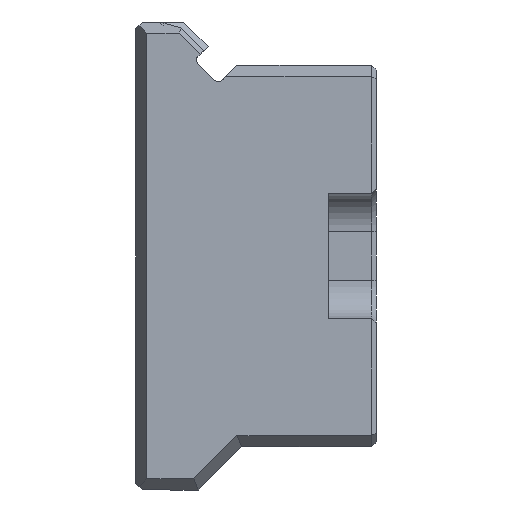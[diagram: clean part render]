
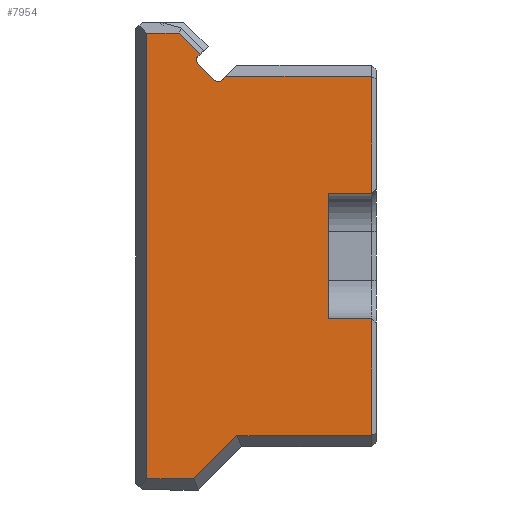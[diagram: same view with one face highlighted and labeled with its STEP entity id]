
A CAD part, left-side view. The second image highlights one B-rep face of the part: STEP entity #7954.
In plain terms, the highlighted planar face has unit normal (-1, 0, 0).
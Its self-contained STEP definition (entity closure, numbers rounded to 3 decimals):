
#35 = PLANE ( 'NONE',  #5017 ) ;
#42 = EDGE_CURVE ( 'NONE', #11324, #8153, #10533, .T. ) ;
#75 = CIRCLE ( 'NONE', #3357, 0.5 ) ;
#76 = ORIENTED_EDGE ( 'NONE', *, *, #3324, .T. ) ;
#85 = CARTESIAN_POINT ( 'NONE',  ( -96., 18.531, 20.719 ) ) ;
#228 = ORIENTED_EDGE ( 'NONE', *, *, #2652, .T. ) ;
#233 = DIRECTION ( 'NONE',  ( 0., 0., 1. ) ) ;
#245 = EDGE_CURVE ( 'NONE', #9662, #11324, #13432, .T. ) ;
#333 = LINE ( 'NONE', #4507, #3190 ) ;
#341 = VECTOR ( 'NONE', #7131, 1000. ) ;
#384 = CARTESIAN_POINT ( 'NONE',  ( -96., 18.177, 20.366 ) ) ;
#444 = CARTESIAN_POINT ( 'NONE',  ( -96., 5., 6.5 ) ) ;
#492 = AXIS2_PLACEMENT_3D ( 'NONE', #384, #1259, #3394 ) ;
#562 = LINE ( 'NONE', #4802, #11671 ) ;
#866 = CARTESIAN_POINT ( 'NONE',  ( -96., 15.5, 18.645 ) ) ;
#913 = LINE ( 'NONE', #7177, #6960 ) ;
#936 = DIRECTION ( 'NONE',  ( 0., 0., 1. ) ) ;
#953 = CARTESIAN_POINT ( 'NONE',  ( -96., 20.478, 23.145 ) ) ;
#1013 = VERTEX_POINT ( 'NONE', #953 ) ;
#1137 = DIRECTION ( 'NONE',  ( 1., 0., 0. ) ) ;
#1149 = CARTESIAN_POINT ( 'NONE',  ( -96., 23.845, -24.3 ) ) ;
#1223 = ORIENTED_EDGE ( 'NONE', *, *, #8523, .T. ) ;
#1259 = DIRECTION ( 'NONE',  ( 1., 0., 0. ) ) ;
#1343 = VECTOR ( 'NONE', #7256, 1000. ) ;
#1457 = ORIENTED_EDGE ( 'NONE', *, *, #10253, .F. ) ;
#1555 = LINE ( 'NONE', #11840, #1683 ) ;
#1573 = CARTESIAN_POINT ( 'NONE',  ( -96., 18.531, 20.012 ) ) ;
#1595 = VECTOR ( 'NONE', #10162, 1000. ) ;
#1656 = DIRECTION ( 'NONE',  ( 0., 0., -1. ) ) ;
#1671 = EDGE_CURVE ( 'NONE', #8153, #2325, #7316, .T. ) ;
#1683 = VECTOR ( 'NONE', #11912, 1000. ) ;
#1730 = EDGE_CURVE ( 'NONE', #7205, #12745, #10467, .T. ) ;
#2009 = ORIENTED_EDGE ( 'NONE', *, *, #5384, .T. ) ;
#2065 = EDGE_CURVE ( 'NONE', #2797, #6049, #1555, .T. ) ;
#2080 = ORIENTED_EDGE ( 'NONE', *, *, #42, .T. ) ;
#2325 = VERTEX_POINT ( 'NONE', #8311 ) ;
#2341 = VERTEX_POINT ( 'NONE', #11650 ) ;
#2409 = VERTEX_POINT ( 'NONE', #5792 ) ;
#2621 = CARTESIAN_POINT ( 'NONE',  ( -96., 0.5, 18.645 ) ) ;
#2652 = EDGE_CURVE ( 'NONE', #2325, #1013, #562, .T. ) ;
#2686 = ORIENTED_EDGE ( 'NONE', *, *, #1671, .T. ) ;
#2797 = VERTEX_POINT ( 'NONE', #6081 ) ;
#2824 = CARTESIAN_POINT ( 'NONE',  ( -96., 5., -6.5 ) ) ;
#3016 = VERTEX_POINT ( 'NONE', #9995 ) ;
#3080 = CARTESIAN_POINT ( 'NONE',  ( -96., 5., -6.5 ) ) ;
#3153 = EDGE_CURVE ( 'NONE', #2409, #7205, #11652, .T. ) ;
#3190 = VECTOR ( 'NONE', #8660, 1000. ) ;
#3242 = ORIENTED_EDGE ( 'NONE', *, *, #245, .T. ) ;
#3324 = EDGE_CURVE ( 'NONE', #1013, #3352, #333, .T. ) ;
#3352 = VERTEX_POINT ( 'NONE', #9775 ) ;
#3357 = AXIS2_PLACEMENT_3D ( 'NONE', #4311, #1137, #10654 ) ;
#3394 = DIRECTION ( 'NONE',  ( 0., 0., 1. ) ) ;
#3649 = DIRECTION ( 'NONE',  ( 0., 0.707, 0.707 ) ) ;
#3720 = VERTEX_POINT ( 'NONE', #9992 ) ;
#3895 = EDGE_CURVE ( 'NONE', #2341, #9662, #75, .T. ) ;
#4311 = CARTESIAN_POINT ( 'NONE',  ( -96., 16.409, 18.598 ) ) ;
#4338 = VERTEX_POINT ( 'NONE', #444 ) ;
#4507 = CARTESIAN_POINT ( 'NONE',  ( -96., 25., 23.145 ) ) ;
#4753 = LINE ( 'NONE', #5831, #10234 ) ;
#4802 = CARTESIAN_POINT ( 'NONE',  ( -96., 20.816, 23.484 ) ) ;
#5017 = AXIS2_PLACEMENT_3D ( 'NONE', #8280, #8418, #936 ) ;
#5018 = VECTOR ( 'NONE', #10036, 1000. ) ;
#5277 = LINE ( 'NONE', #7260, #341 ) ;
#5338 = DIRECTION ( 'NONE',  ( 0., -0.707, 0.707 ) ) ;
#5384 = EDGE_CURVE ( 'NONE', #12745, #2797, #913, .T. ) ;
#5661 = VECTOR ( 'NONE', #1656, 1000. ) ;
#5740 = EDGE_CURVE ( 'NONE', #9972, #6049, #9443, .T. ) ;
#5792 = CARTESIAN_POINT ( 'NONE',  ( -96., 23.845, -23.145 ) ) ;
#5831 = CARTESIAN_POINT ( 'NONE',  ( -96., 5., 6.5 ) ) ;
#5899 = EDGE_CURVE ( 'NONE', #3720, #3016, #12129, .T. ) ;
#6049 = VERTEX_POINT ( 'NONE', #6668 ) ;
#6081 = CARTESIAN_POINT ( 'NONE',  ( -96., 0.5, -18.645 ) ) ;
#6169 = CARTESIAN_POINT ( 'NONE',  ( -96., 16.975, 22.275 ) ) ;
#6352 = DIRECTION ( 'NONE',  ( 0., 0., -1. ) ) ;
#6353 = ORIENTED_EDGE ( 'NONE', *, *, #5899, .T. ) ;
#6399 = ORIENTED_EDGE ( 'NONE', *, *, #12490, .T. ) ;
#6668 = CARTESIAN_POINT ( 'NONE',  ( -96., 0.5, -6.5 ) ) ;
#6703 = LINE ( 'NONE', #10897, #5661 ) ;
#6960 = VECTOR ( 'NONE', #10398, 1000. ) ;
#7056 = ORIENTED_EDGE ( 'NONE', *, *, #11159, .T. ) ;
#7131 = DIRECTION ( 'NONE',  ( 0., 0.707, -0.707 ) ) ;
#7177 = CARTESIAN_POINT ( 'NONE',  ( -96., 0., -18.645 ) ) ;
#7205 = VERTEX_POINT ( 'NONE', #8698 ) ;
#7256 = DIRECTION ( 'NONE',  ( 0., -0.707, 0.707 ) ) ;
#7260 = CARTESIAN_POINT ( 'NONE',  ( -96., 14.5, 19.8 ) ) ;
#7316 = LINE ( 'NONE', #6169, #11421 ) ;
#7559 = CARTESIAN_POINT ( 'NONE',  ( -96., 18.5, -23.145 ) ) ;
#7676 = VECTOR ( 'NONE', #233, 1000. ) ;
#7741 = VECTOR ( 'NONE', #6352, 1000. ) ;
#7954 = ADVANCED_FACE ( 'NONE', ( #8162 ), #35, .T. ) ;
#8153 = VERTEX_POINT ( 'NONE', #85 ) ;
#8155 = CARTESIAN_POINT ( 'NONE',  ( -96., 16.409, 17.891 ) ) ;
#8162 = FACE_OUTER_BOUND ( 'NONE', #11170, .T. ) ;
#8280 = CARTESIAN_POINT ( 'NONE',  ( -96., 0., 0. ) ) ;
#8311 = CARTESIAN_POINT ( 'NONE',  ( -96., 18.291, 20.958 ) ) ;
#8418 = DIRECTION ( 'NONE',  ( -1., 0., 0. ) ) ;
#8523 = EDGE_CURVE ( 'NONE', #3352, #2409, #11854, .T. ) ;
#8629 = ORIENTED_EDGE ( 'NONE', *, *, #5740, .F. ) ;
#8660 = DIRECTION ( 'NONE',  ( 0., 1., 0. ) ) ;
#8698 = CARTESIAN_POINT ( 'NONE',  ( -96., 18.978, -23.145 ) ) ;
#9011 = EDGE_CURVE ( 'NONE', #3016, #2341, #5277, .T. ) ;
#9409 = ORIENTED_EDGE ( 'NONE', *, *, #1730, .T. ) ;
#9443 = LINE ( 'NONE', #3080, #10938 ) ;
#9662 = VERTEX_POINT ( 'NONE', #12605 ) ;
#9753 = VECTOR ( 'NONE', #10592, 1000. ) ;
#9775 = CARTESIAN_POINT ( 'NONE',  ( -96., 23.845, 23.145 ) ) ;
#9795 = CARTESIAN_POINT ( 'NONE',  ( -96., 14.478, -18.645 ) ) ;
#9972 = VERTEX_POINT ( 'NONE', #2824 ) ;
#9992 = CARTESIAN_POINT ( 'NONE',  ( -96., 0.5, 18.645 ) ) ;
#9995 = CARTESIAN_POINT ( 'NONE',  ( -96., 15.655, 18.645 ) ) ;
#10036 = DIRECTION ( 'NONE',  ( 0., 1., 0. ) ) ;
#10162 = DIRECTION ( 'NONE',  ( 0., 0.707, 0.707 ) ) ;
#10234 = VECTOR ( 'NONE', #13357, 1000. ) ;
#10253 = EDGE_CURVE ( 'NONE', #4338, #9972, #6703, .T. ) ;
#10311 = ORIENTED_EDGE ( 'NONE', *, *, #9011, .T. ) ;
#10398 = DIRECTION ( 'NONE',  ( 0., -1., 0. ) ) ;
#10467 = LINE ( 'NONE', #11613, #1343 ) ;
#10533 = CIRCLE ( 'NONE', #492, 0.5 ) ;
#10592 = DIRECTION ( 'NONE',  ( 0., -1., 0. ) ) ;
#10654 = DIRECTION ( 'NONE',  ( 0., 0., 1. ) ) ;
#10897 = CARTESIAN_POINT ( 'NONE',  ( -96., 5., -6.5 ) ) ;
#10938 = VECTOR ( 'NONE', #12637, 1000. ) ;
#11159 = EDGE_CURVE ( 'NONE', #4338, #12242, #4753, .T. ) ;
#11170 = EDGE_LOOP ( 'NONE', ( #3242, #2080, #2686, #228, #76, #1223, #12916, #9409, #2009, #13520, #8629, #1457, #7056, #6399, #6353, #10311, #11500 ) ) ;
#11324 = VERTEX_POINT ( 'NONE', #1573 ) ;
#11421 = VECTOR ( 'NONE', #5338, 1000. ) ;
#11500 = ORIENTED_EDGE ( 'NONE', *, *, #3895, .T. ) ;
#11613 = CARTESIAN_POINT ( 'NONE',  ( -96., 14.816, -18.984 ) ) ;
#11650 = CARTESIAN_POINT ( 'NONE',  ( -96., 16.056, 18.244 ) ) ;
#11652 = LINE ( 'NONE', #7559, #9753 ) ;
#11671 = VECTOR ( 'NONE', #3649, 1000. ) ;
#11769 = CARTESIAN_POINT ( 'NONE',  ( -96., 0.5, 6.5 ) ) ;
#11840 = CARTESIAN_POINT ( 'NONE',  ( -96., 0.5, -6.5 ) ) ;
#11854 = LINE ( 'NONE', #1149, #7741 ) ;
#11912 = DIRECTION ( 'NONE',  ( 0., 0., 1. ) ) ;
#12129 = LINE ( 'NONE', #866, #5018 ) ;
#12242 = VERTEX_POINT ( 'NONE', #11769 ) ;
#12490 = EDGE_CURVE ( 'NONE', #12242, #3720, #13081, .T. ) ;
#12605 = CARTESIAN_POINT ( 'NONE',  ( -96., 16.763, 18.244 ) ) ;
#12637 = DIRECTION ( 'NONE',  ( 0., -1., 0. ) ) ;
#12745 = VERTEX_POINT ( 'NONE', #9795 ) ;
#12916 = ORIENTED_EDGE ( 'NONE', *, *, #3153, .T. ) ;
#13081 = LINE ( 'NONE', #2621, #7676 ) ;
#13357 = DIRECTION ( 'NONE',  ( 0., -1., 0. ) ) ;
#13432 = LINE ( 'NONE', #8155, #1595 ) ;
#13520 = ORIENTED_EDGE ( 'NONE', *, *, #2065, .T. ) ;
